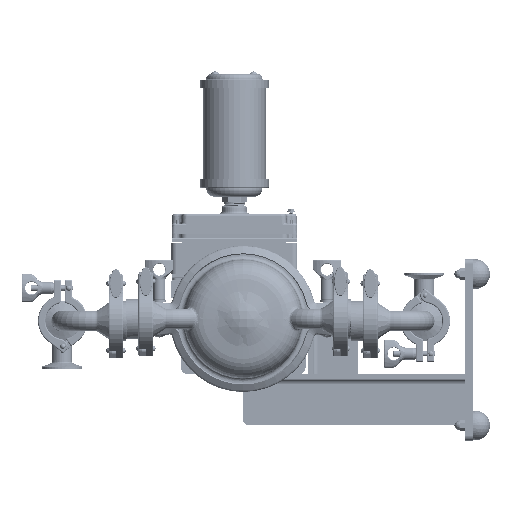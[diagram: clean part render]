
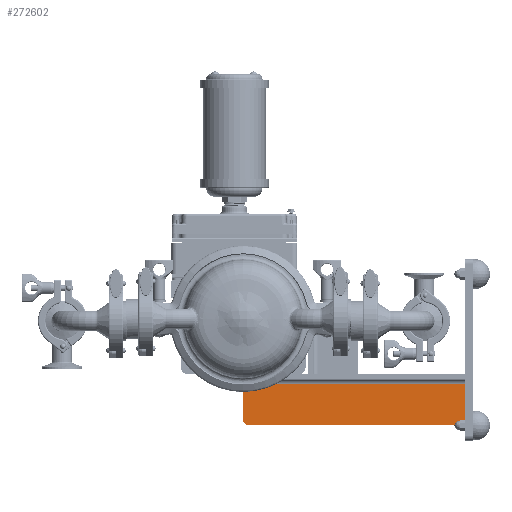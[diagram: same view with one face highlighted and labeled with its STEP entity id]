
A CAD part, left-side view. The second image highlights one B-rep face of the part: STEP entity #272602.
In plain terms, the highlighted planar face has unit normal (-1, 0, 0).
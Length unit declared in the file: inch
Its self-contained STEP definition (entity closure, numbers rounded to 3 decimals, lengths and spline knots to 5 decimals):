
#878 = PLANE ( 'NONE',  #156390 ) ;
#2474 = LINE ( 'NONE', #27194, #99138 ) ;
#2494 = DIRECTION ( 'NONE',  ( 0., 0., 1. ) ) ;
#6746 = ORIENTED_EDGE ( 'NONE', *, *, #252262, .F. ) ;
#22387 = FACE_OUTER_BOUND ( 'NONE', #105068, .T. ) ;
#27194 = CARTESIAN_POINT ( 'NONE',  ( -0.125, -10.99, -3.25 ) ) ;
#55469 = LINE ( 'NONE', #155988, #76104 ) ;
#76104 = VECTOR ( 'NONE', #101669, 39.37008 ) ;
#82599 = VECTOR ( 'NONE', #254599, 39.37008 ) ;
#99138 = VECTOR ( 'NONE', #224928, 39.37008 ) ;
#99494 = VERTEX_POINT ( 'NONE', #304619 ) ;
#101669 = DIRECTION ( 'NONE',  ( 0., -1., 0. ) ) ;
#102975 = DIRECTION ( 'NONE',  ( -1., 0., 0. ) ) ;
#105068 = EDGE_LOOP ( 'NONE', ( #6746, #178021, #225853, #113158, #191394 ) ) ;
#106545 = VERTEX_POINT ( 'NONE', #144160 ) ;
#107913 = LINE ( 'NONE', #208385, #82599 ) ;
#113158 = ORIENTED_EDGE ( 'NONE', *, *, #214131, .T. ) ;
#144160 = CARTESIAN_POINT ( 'NONE',  ( -0.125, -0.24, -5.25 ) ) ;
#155988 = CARTESIAN_POINT ( 'NONE',  ( -0.125, -0.24, -5.25 ) ) ;
#156390 = AXIS2_PLACEMENT_3D ( 'NONE', #305578, #102975, #2494 ) ;
#157940 = CARTESIAN_POINT ( 'NONE',  ( -0.125, -10.99, -5.25 ) ) ;
#160003 = CARTESIAN_POINT ( 'NONE',  ( -0.125, 0.01, -5. ) ) ;
#168335 = VECTOR ( 'NONE', #326065, 39.37008 ) ;
#178021 = ORIENTED_EDGE ( 'NONE', *, *, #292425, .T. ) ;
#185378 = AXIS2_PLACEMENT_3D ( 'NONE', #271827, #197698, #293285 ) ;
#191394 = ORIENTED_EDGE ( 'NONE', *, *, #306144, .F. ) ;
#197698 = DIRECTION ( 'NONE',  ( -1., 0., 0. ) ) ;
#208385 = CARTESIAN_POINT ( 'NONE',  ( -0.125, 0.01, -3.25 ) ) ;
#213178 = VERTEX_POINT ( 'NONE', #157940 ) ;
#214131 = EDGE_CURVE ( 'NONE', #106545, #213178, #55469, .T. ) ;
#224928 = DIRECTION ( 'NONE',  ( 0., 0., -1. ) ) ;
#225200 = VERTEX_POINT ( 'NONE', #160003 ) ;
#225853 = ORIENTED_EDGE ( 'NONE', *, *, #263803, .T. ) ;
#234207 = CARTESIAN_POINT ( 'NONE',  ( -0.125, 0.01, -3.25 ) ) ;
#252262 = EDGE_CURVE ( 'NONE', #271917, #99494, #107913, .T. ) ;
#254599 = DIRECTION ( 'NONE',  ( 0., -1., 0. ) ) ;
#263803 = EDGE_CURVE ( 'NONE', #225200, #106545, #295874, .T. ) ;
#271802 = LINE ( 'NONE', #299734, #168335 ) ;
#271827 = CARTESIAN_POINT ( 'NONE',  ( -0.125, -0.24, -5. ) ) ;
#271917 = VERTEX_POINT ( 'NONE', #234207 ) ;
#272602 = ADVANCED_FACE ( 'NONE', ( #22387 ), #878, .T. ) ;
#292425 = EDGE_CURVE ( 'NONE', #271917, #225200, #271802, .T. ) ;
#293285 = DIRECTION ( 'NONE',  ( 0., 1., 0. ) ) ;
#295874 = CIRCLE ( 'NONE', #185378, 0.25 ) ;
#299734 = CARTESIAN_POINT ( 'NONE',  ( -0.125, 0.01, -3.25 ) ) ;
#304619 = CARTESIAN_POINT ( 'NONE',  ( -0.125, -10.99, -3.25 ) ) ;
#305578 = CARTESIAN_POINT ( 'NONE',  ( -0.125, 0.01, -3. ) ) ;
#306144 = EDGE_CURVE ( 'NONE', #99494, #213178, #2474, .T. ) ;
#326065 = DIRECTION ( 'NONE',  ( 0., 0., -1. ) ) ;
